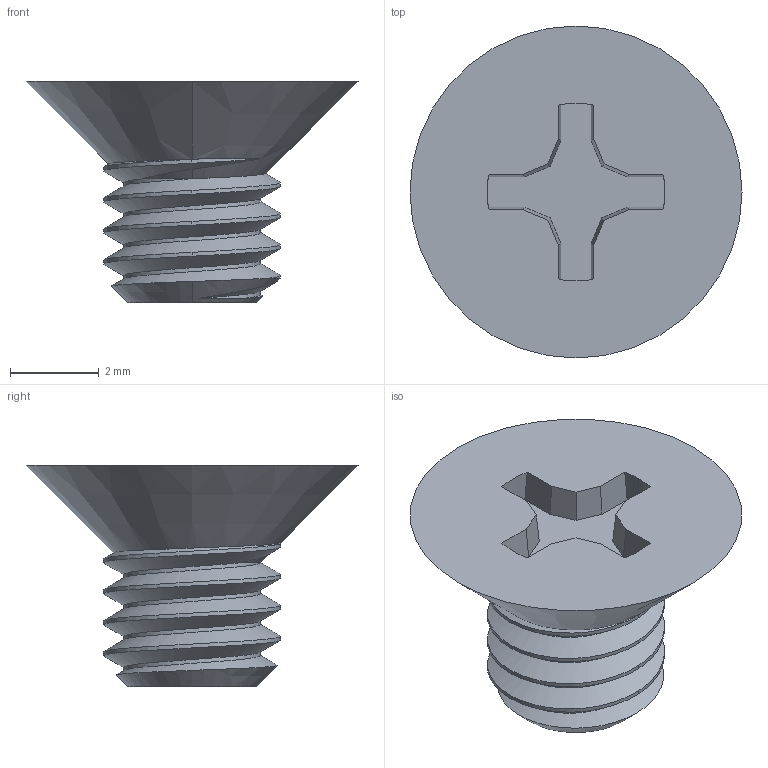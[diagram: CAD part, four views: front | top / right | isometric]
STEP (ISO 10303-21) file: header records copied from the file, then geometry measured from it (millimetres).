
FILE_DESCRIPTION (( 'STEP AP203' ), '1' );
FILE_NAME ('92010A212_Passivated 18-8 Stainless Steel Phillips Flat Head Screw.STEP', '2022-03-23T20:43:36', ( 'Administrator' ), ( 'Managed by Terraform' ), 'SwSTEP 2.0', 'SolidWorks 2017', '' );
FILE_SCHEMA (( 'CONFIG_CONTROL_DESIGN' ));
Length unit declared in the file: millimetre
Products named in the file (1): 92010A212_Passivated 18-8 Stainless Steel Phillips Flat Head Screw
Bounding box: 7.5 x 7.5 x 5 mm (x, y, z)
Volume: 74.4 mm3; surface area: 166.4 mm2
Topology: 1 solids, 1 shells, 44 faces, 123 edges, 82 vertices
Faces by surface type: plane 20, cylinder 16, cone 5, bspline 3
Entity records: 2268 total; most frequent: CARTESIAN_POINT 1154, ORIENTED_EDGE 246, DIRECTION 188, EDGE_CURVE 123, VERTEX_POINT 82, AXIS2_PLACEMENT_3D 64, LINE 60, VECTOR 60
